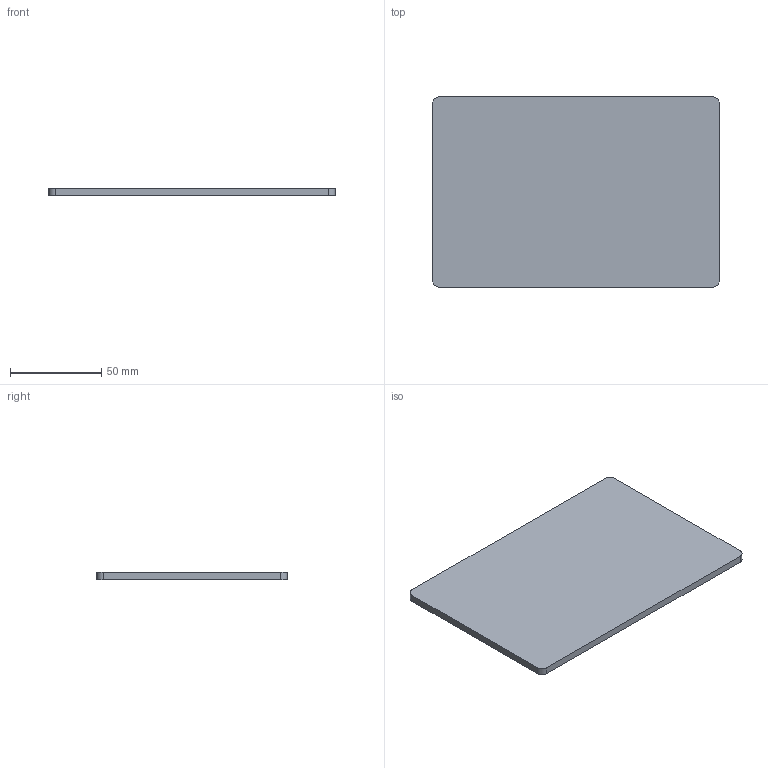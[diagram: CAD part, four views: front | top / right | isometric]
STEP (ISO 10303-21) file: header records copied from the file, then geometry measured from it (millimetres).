
FILE_DESCRIPTION (( 'STEP AP214' ), '1' );
FILE_NAME ('3561000541~cat.STEP', '2025-04-29T14:19:05', ( '' ), ( '' ), 'SwSTEP 2.0', 'SolidWorks 2025', '' );
FILE_SCHEMA (( 'AUTOMOTIVE_DESIGN' ));
Length unit declared in the file: millimetre
Products named in the file (1): 3561000541~cat
Bounding box: 157 x 104.5 x 4 mm (x, y, z)
Volume: 65581.5 mm3; surface area: 34858 mm2
Topology: 1 solids, 1 shells, 10 faces, 24 edges, 16 vertices
Faces by surface type: plane 6, cylinder 4
Entity records: 319 total; most frequent: DIRECTION 54, CARTESIAN_POINT 51, ORIENTED_EDGE 48, EDGE_CURVE 24, AXIS2_PLACEMENT_3D 19, LINE 16, VECTOR 16, VERTEX_POINT 16
